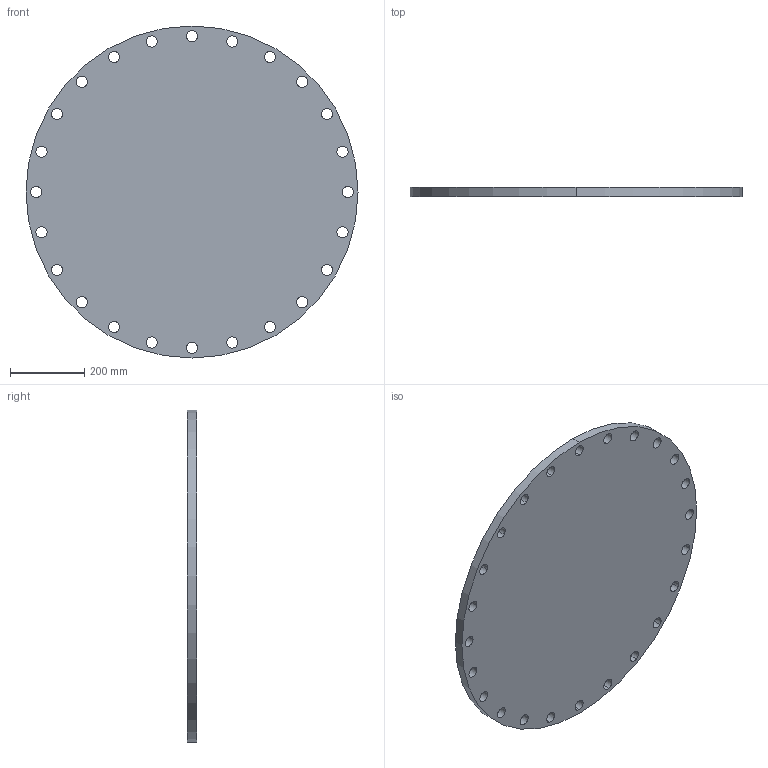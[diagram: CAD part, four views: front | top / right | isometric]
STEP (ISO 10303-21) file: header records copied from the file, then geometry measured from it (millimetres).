
FILE_DESCRIPTION (( 'STEP AP203' ), '1' );
FILE_NAME ('3D_R187_PN10_DN700_176661280_176662280.STEP', '2024-07-10T09:40:44', ( '' ), ( '' ), 'SwSTEP 2.0', 'SolidWorks 2024', '' );
FILE_SCHEMA (( 'CONFIG_CONTROL_DESIGN' ));
Length unit declared in the file: millimetre
Products named in the file (1): 3D_R187_PN10_DN700_176661280_176662280
Bounding box: 895 x 25 x 895 mm (x, y, z)
Volume: 15303974.1 mm3; surface area: 1351159.7 mm2
Topology: 1 solids, 1 shells, 52 faces, 150 edges, 100 vertices
Faces by surface type: cylinder 50, plane 2
Entity records: 1947 total; most frequent: DIRECTION 356, CARTESIAN_POINT 303, ORIENTED_EDGE 300, AXIS2_PLACEMENT_3D 153, EDGE_CURVE 150, CIRCLE 100, EDGE_LOOP 100, VERTEX_POINT 100
